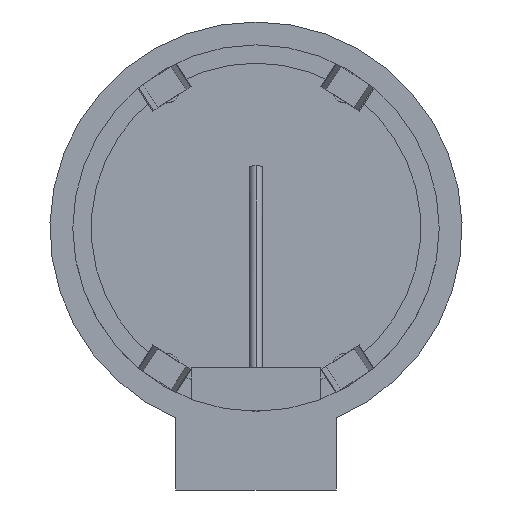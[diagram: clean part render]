
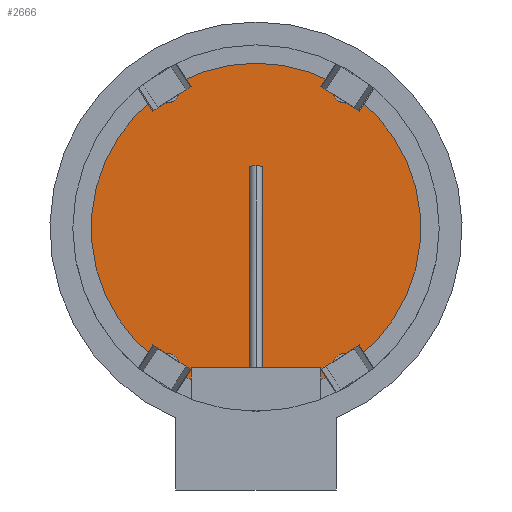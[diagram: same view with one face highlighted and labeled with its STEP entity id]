
A CAD part, front view. The second image highlights one B-rep face of the part: STEP entity #2666.
In plain terms, the highlighted planar face has unit normal (0, -1, 0).
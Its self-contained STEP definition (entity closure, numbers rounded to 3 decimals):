
#778=CARTESIAN_POINT('',(0.,-86.,0.));
#779=DIRECTION('',(0.,-1.,0.));
#780=DIRECTION('',(0.478,0.,0.878));
#781=AXIS2_PLACEMENT_3D('',#778,#779,#780);
#783=CARTESIAN_POINT('',(0.,-86.,0.));
#784=DIRECTION('',(0.,-1.,0.));
#785=DIRECTION('',(0.608,0.,-0.794));
#786=AXIS2_PLACEMENT_3D('',#783,#784,#785);
#810=CARTESIAN_POINT('',(0.,-86.,0.));
#811=DIRECTION('',(0.,-1.,0.));
#812=DIRECTION('',(-0.608,0.,0.794));
#813=AXIS2_PLACEMENT_3D('',#810,#811,#812);
#823=CARTESIAN_POINT('',(0.,-86.,0.));
#824=DIRECTION('',(0.,-1.,0.));
#825=DIRECTION('',(0.392,0.,-0.92));
#826=AXIS2_PLACEMENT_3D('',#823,#824,#825);
#850=CARTESIAN_POINT('',(0.,-86.,0.));
#851=DIRECTION('',(0.,-1.,0.));
#852=DIRECTION('',(-0.478,0.,-0.878));
#853=AXIS2_PLACEMENT_3D('',#850,#851,#852);
#873=DIRECTION('',(-1.,0.,0.));
#874=VECTOR('',#873,282.);
#875=CARTESIAN_POINT('',(141.,-86.,-305.));
#876=LINE('',#875,#874);
#877=DIRECTION('',(0.,0.,1.));
#878=VECTOR('',#877,26.239);
#879=CARTESIAN_POINT('',(-141.,-86.,-331.239));
#880=LINE('',#879,#878);
#881=CARTESIAN_POINT('',(-195.525,-86.,-301.083));
#882=DIRECTION('',(0.,1.,0.));
#883=DIRECTION('',(1.,0.,0.));
#884=AXIS2_PLACEMENT_3D('',#881,#882,#883);
#886=CARTESIAN_POINT('',(-195.525,-86.,-301.083));
#887=DIRECTION('',(0.,1.,0.));
#888=DIRECTION('',(-0.837,0.,0.547));
#889=AXIS2_PLACEMENT_3D('',#886,#887,#888);
#891=CARTESIAN_POINT('',(-195.525,-86.,301.083));
#892=DIRECTION('',(0.,-1.,0.));
#893=DIRECTION('',(-0.837,0.,-0.547));
#894=AXIS2_PLACEMENT_3D('',#891,#892,#893);
#896=CARTESIAN_POINT('',(-195.525,-86.,301.083));
#897=DIRECTION('',(0.,-1.,0.));
#898=DIRECTION('',(1.,0.,0.));
#899=AXIS2_PLACEMENT_3D('',#896,#897,#898);
#901=CARTESIAN_POINT('',(195.525,-86.,301.083));
#902=DIRECTION('',(0.,1.,0.));
#903=DIRECTION('',(-1.,0.,0.));
#904=AXIS2_PLACEMENT_3D('',#901,#902,#903);
#906=CARTESIAN_POINT('',(195.525,-86.,301.083));
#907=DIRECTION('',(0.,1.,0.));
#908=DIRECTION('',(0.837,0.,-0.547));
#909=AXIS2_PLACEMENT_3D('',#906,#907,#908);
#911=CARTESIAN_POINT('',(195.525,-86.,-301.083));
#912=DIRECTION('',(0.,-1.,0.));
#913=DIRECTION('',(0.837,0.,0.547));
#914=AXIS2_PLACEMENT_3D('',#911,#912,#913);
#916=CARTESIAN_POINT('',(195.525,-86.,-301.083));
#917=DIRECTION('',(0.,-1.,0.));
#918=DIRECTION('',(-1.,0.,0.));
#919=AXIS2_PLACEMENT_3D('',#916,#917,#918);
#921=DIRECTION('',(0.,0.,-1.));
#922=VECTOR('',#921,26.239);
#923=CARTESIAN_POINT('',(141.,-86.,-305.));
#924=LINE('',#923,#922);
#1453=CARTESIAN_POINT('',(218.959,-86.,285.757));
#1454=CARTESIAN_POINT('',(167.525,-86.,301.083));
#1455=VERTEX_POINT('',#1453);
#1456=VERTEX_POINT('',#1454);
#1457=CARTESIAN_POINT('',(171.993,-86.,316.257));
#1458=VERTEX_POINT('',#1457);
#1503=CARTESIAN_POINT('',(141.,-86.,-305.));
#1504=CARTESIAN_POINT('',(-141.,-86.,-305.));
#1505=VERTEX_POINT('',#1503);
#1506=VERTEX_POINT('',#1504);
#1545=CARTESIAN_POINT('',(141.,-86.,-331.239));
#1546=VERTEX_POINT('',#1545);
#1547=CARTESIAN_POINT('',(-141.,-86.,-331.239));
#1548=VERTEX_POINT('',#1547);
#1561=CARTESIAN_POINT('',(-167.525,-86.,301.083));
#1562=VERTEX_POINT('',#1561);
#1589=CARTESIAN_POINT('',(-218.959,-86.,285.757));
#1590=VERTEX_POINT('',#1589);
#1591=CARTESIAN_POINT('',(-171.993,-86.,316.257));
#1592=VERTEX_POINT('',#1591);
#1619=CARTESIAN_POINT('',(167.525,-86.,-301.083));
#1620=VERTEX_POINT('',#1619);
#1653=CARTESIAN_POINT('',(-167.525,-86.,-301.083));
#1654=VERTEX_POINT('',#1653);
#1681=CARTESIAN_POINT('',(218.959,-86.,-285.757));
#1682=VERTEX_POINT('',#1681);
#1683=CARTESIAN_POINT('',(171.993,-86.,-316.257));
#1684=VERTEX_POINT('',#1683);
#1705=CARTESIAN_POINT('',(-218.959,-86.,-285.757));
#1706=VERTEX_POINT('',#1705);
#1707=CARTESIAN_POINT('',(-171.993,-86.,-316.257));
#1708=VERTEX_POINT('',#1707);
#2635=CARTESIAN_POINT('',(0.,-86.,0.));
#2636=DIRECTION('',(0.,-1.,0.));
#2637=DIRECTION('',(1.,0.,0.));
#2638=AXIS2_PLACEMENT_3D('',#2635,#2636,#2637);
#2639=PLANE('',#2638);
#2641=ORIENTED_EDGE('',*,*,#2640,.T.);
#2642=ORIENTED_EDGE('',*,*,#2481,.F.);
#2643=ORIENTED_EDGE('',*,*,#2586,.F.);
#2645=ORIENTED_EDGE('',*,*,#2644,.F.);
#2647=ORIENTED_EDGE('',*,*,#2646,.F.);
#2648=ORIENTED_EDGE('',*,*,#2555,.F.);
#2649=ORIENTED_EDGE('',*,*,#2618,.T.);
#2650=ORIENTED_EDGE('',*,*,#2600,.T.);
#2651=ORIENTED_EDGE('',*,*,#2527,.F.);
#2653=ORIENTED_EDGE('',*,*,#2652,.F.);
#2655=ORIENTED_EDGE('',*,*,#2654,.F.);
#2656=ORIENTED_EDGE('',*,*,#2537,.F.);
#2658=ORIENTED_EDGE('',*,*,#2657,.T.);
#2660=ORIENTED_EDGE('',*,*,#2659,.T.);
#2661=ORIENTED_EDGE('',*,*,#2569,.F.);
#2663=ORIENTED_EDGE('',*,*,#2662,.F.);
#2664=EDGE_LOOP('',(#2641,#2642,#2643,#2645,#2647,#2648,#2649,#2650,#2651,#2653,
#2655,#2656,#2658,#2660,#2661,#2663));
#2665=FACE_OUTER_BOUND('',#2664,.F.);
#782=CIRCLE('',#781,360.);
#787=CIRCLE('',#786,360.);
#814=CIRCLE('',#813,360.);
#827=CIRCLE('',#826,360.);
#854=CIRCLE('',#853,360.);
#885=CIRCLE('',#884,28.);
#890=CIRCLE('',#889,28.);
#895=CIRCLE('',#894,28.);
#900=CIRCLE('',#899,28.);
#905=CIRCLE('',#904,28.);
#910=CIRCLE('',#909,28.);
#915=CIRCLE('',#914,28.);
#920=CIRCLE('',#919,28.);
#2481=EDGE_CURVE('',#1548,#1506,#880,.T.);
#2527=EDGE_CURVE('',#1458,#1592,#782,.T.);
#2537=EDGE_CURVE('',#1682,#1455,#787,.T.);
#2555=EDGE_CURVE('',#1590,#1706,#814,.T.);
#2569=EDGE_CURVE('',#1546,#1684,#827,.T.);
#2586=EDGE_CURVE('',#1708,#1548,#854,.T.);
#2600=EDGE_CURVE('',#1562,#1592,#900,.T.);
#2618=EDGE_CURVE('',#1590,#1562,#895,.T.);
#2640=EDGE_CURVE('',#1505,#1506,#876,.T.);
#2644=EDGE_CURVE('',#1654,#1708,#885,.T.);
#2646=EDGE_CURVE('',#1706,#1654,#890,.T.);
#2652=EDGE_CURVE('',#1456,#1458,#905,.T.);
#2654=EDGE_CURVE('',#1455,#1456,#910,.T.);
#2657=EDGE_CURVE('',#1682,#1620,#915,.T.);
#2659=EDGE_CURVE('',#1620,#1684,#920,.T.);
#2662=EDGE_CURVE('',#1505,#1546,#924,.T.);
#2666=ADVANCED_FACE('',(#2665),#2639,.T.);
